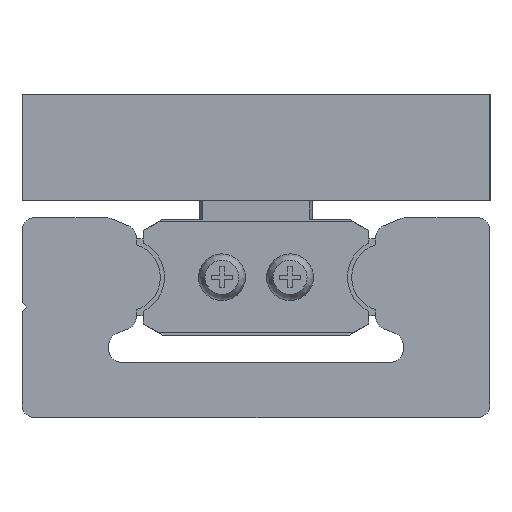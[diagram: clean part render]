
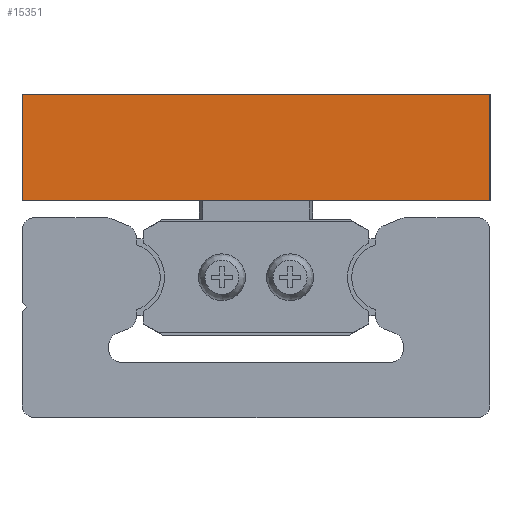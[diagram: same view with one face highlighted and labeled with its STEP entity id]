
A CAD part, left-side view. The second image highlights one B-rep face of the part: STEP entity #15351.
In plain terms, the highlighted planar face has unit normal (-1, 0, 0).
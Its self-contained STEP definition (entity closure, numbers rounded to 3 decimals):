
#15147=CARTESIAN_POINT('',(0.0,-27.5,21.5));
#15148=VERTEX_POINT('',#15147);
#15155=CARTESIAN_POINT('',(0.0,-27.5,9.0));
#15156=VERTEX_POINT('',#15155);
#15157=CARTESIAN_POINT('',(0.0,-27.5,21.5));
#15158=DIRECTION('',(0.0,0.0,-1.0));
#15159=VECTOR('',#15158,12.5);
#15160=LINE('',#15157,#15159);
#15161=EDGE_CURVE('',#15148,#15156,#15160,.T.);
#15191=CARTESIAN_POINT('',(0.0,27.5,21.5));
#15192=VERTEX_POINT('',#15191);
#15199=CARTESIAN_POINT('',(0.0,27.5,21.5));
#15200=DIRECTION('',(0.0,-1.0,0.0));
#15201=VECTOR('',#15200,55.0);
#15202=LINE('',#15199,#15201);
#15203=EDGE_CURVE('',#15192,#15148,#15202,.T.);
#15264=CARTESIAN_POINT('',(0.0,27.5,9.));
#15265=VERTEX_POINT('',#15264);
#15272=CARTESIAN_POINT('',(0.0,27.5,9.));
#15273=DIRECTION('',(0.0,0.0,1.0));
#15274=VECTOR('',#15273,12.5);
#15275=LINE('',#15272,#15274);
#15276=EDGE_CURVE('',#15265,#15192,#15275,.T.);
#15300=CARTESIAN_POINT('',(0.0,-27.5,9.0));
#15301=DIRECTION('',(0.0,1.0,0.0));
#15302=VECTOR('',#15301,55.0);
#15303=LINE('',#15300,#15302);
#15304=EDGE_CURVE('',#15156,#15265,#15303,.T.);
#15340=CARTESIAN_POINT('',(0.0,0.,15.25));
#15341=DIRECTION('',(1.0,0.0,0.0));
#15342=DIRECTION('',(0.0,0.0,-1.0));
#15343=AXIS2_PLACEMENT_3D('',#15340,#15341,#15342);
#15344=PLANE('',#15343);
#15345=ORIENTED_EDGE('',*,*,#15304,.F.);
#15346=ORIENTED_EDGE('',*,*,#15161,.F.);
#15347=ORIENTED_EDGE('',*,*,#15203,.F.);
#15348=ORIENTED_EDGE('',*,*,#15276,.F.);
#15349=EDGE_LOOP('',(#15345,#15346,#15347,#15348));
#15350=FACE_OUTER_BOUND('',#15349,.T.);
#15351=ADVANCED_FACE('',(#15350),#15344,.F.);
